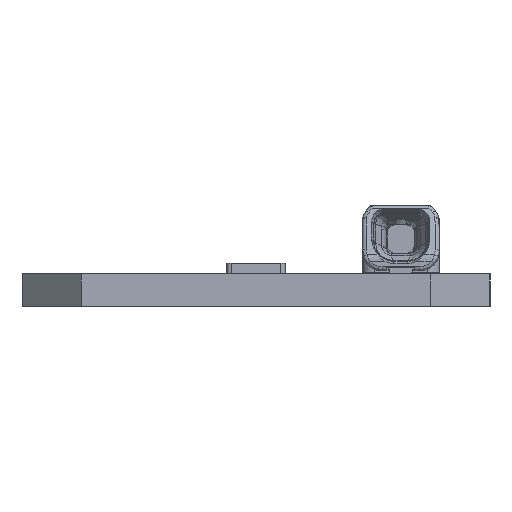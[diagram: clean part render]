
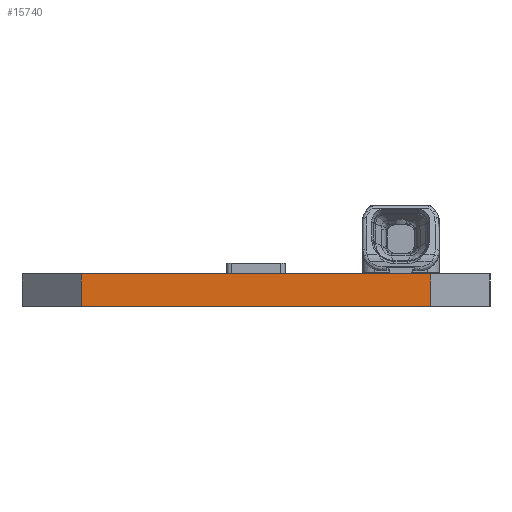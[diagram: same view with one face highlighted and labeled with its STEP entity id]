
A CAD part, left-side view. The second image highlights one B-rep face of the part: STEP entity #15740.
In plain terms, the highlighted planar face has unit normal (-1, 0, 0).
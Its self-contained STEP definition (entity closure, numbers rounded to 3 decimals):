
#92=DIRECTION('',(0.,1.,0.));
#93=VECTOR('',#92,17.6);
#94=CARTESIAN_POINT('',(-139.5,-8.8,0.));
#95=LINE('',#94,#93);
#403=DIRECTION('',(0.,0.,1.));
#404=VECTOR('',#403,1.65);
#405=CARTESIAN_POINT('',(-139.5,-8.8,0.));
#406=LINE('',#405,#404);
#410=DIRECTION('',(0.,1.,0.));
#411=VECTOR('',#410,17.6);
#412=CARTESIAN_POINT('',(-139.5,-8.8,1.65));
#413=LINE('',#412,#411);
#1621=DIRECTION('',(0.,0.,1.));
#1622=VECTOR('',#1621,1.65);
#1623=CARTESIAN_POINT('',(-139.5,8.8,0.));
#1624=LINE('',#1623,#1622);
#13722=CARTESIAN_POINT('',(-139.5,-8.8,0.));
#13723=CARTESIAN_POINT('',(-139.5,8.8,0.));
#13724=VERTEX_POINT('',#13722);
#13725=VERTEX_POINT('',#13723);
#13818=CARTESIAN_POINT('',(-139.5,-8.8,1.65));
#13819=VERTEX_POINT('',#13818);
#13868=CARTESIAN_POINT('',(-139.5,8.8,1.65));
#13869=VERTEX_POINT('',#13868);
#15726=CARTESIAN_POINT('',(-139.5,8.8,1.65));
#15727=DIRECTION('',(-1.,0.,0.));
#15728=DIRECTION('',(0.,0.,1.));
#15729=AXIS2_PLACEMENT_3D('',#15726,#15727,#15728);
#15730=PLANE('',#15729);
#15732=ORIENTED_EDGE('',*,*,#15731,.F.);
#15733=ORIENTED_EDGE('',*,*,#15624,.T.);
#15735=ORIENTED_EDGE('',*,*,#15734,.T.);
#15737=ORIENTED_EDGE('',*,*,#15736,.F.);
#15738=EDGE_LOOP('',(#15732,#15733,#15735,#15737));
#15739=FACE_OUTER_BOUND('',#15738,.F.);
#15624=EDGE_CURVE('',#13724,#13725,#95,.T.);
#15731=EDGE_CURVE('',#13724,#13819,#406,.T.);
#15734=EDGE_CURVE('',#13725,#13869,#1624,.T.);
#15736=EDGE_CURVE('',#13819,#13869,#413,.T.);
#15740=ADVANCED_FACE('',(#15739),#15730,.T.);
